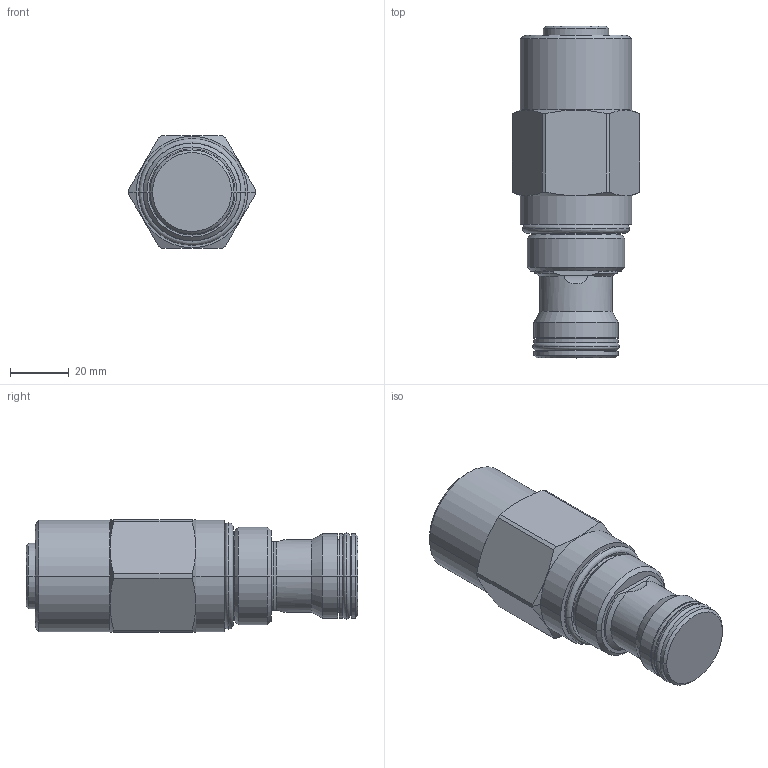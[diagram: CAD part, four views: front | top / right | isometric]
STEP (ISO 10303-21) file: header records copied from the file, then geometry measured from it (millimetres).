
FILE_DESCRIPTION((''),'2;1');
FILE_NAME('PRT0019','2009-03-25T',('JCS'),(''),'PRO/ENGINEER BY PARAMETRIC TECHNOLOGY CORPORATION, 2008510','PRO/ENGINEER BY PARAMETRIC TECHNOLOGY CORPORATION, 2008510','');
FILE_SCHEMA(('CONFIG_CONTROL_DESIGN'));
Length unit declared in the file: inch
Products named in the file (1): PRT0019
Bounding box: 43.23 x 112.74 x 38.1 mm (x, y, z)
Volume: 107151.6 mm3; surface area: 17221.9 mm2
Topology: 3 solids, 3 shells, 97 faces, 216 edges, 126 vertices
Faces by surface type: cylinder 34, cone 24, revolution 16, plane 15, torus 8
Entity records: 3150 total; most frequent: CARTESIAN_POINT 961, DIRECTION 462, ORIENTED_EDGE 432, EDGE_CURVE 216, AXIS2_PLACEMENT_3D 191, VERTEX_POINT 126, CIRCLE 110, EDGE_LOOP 102
